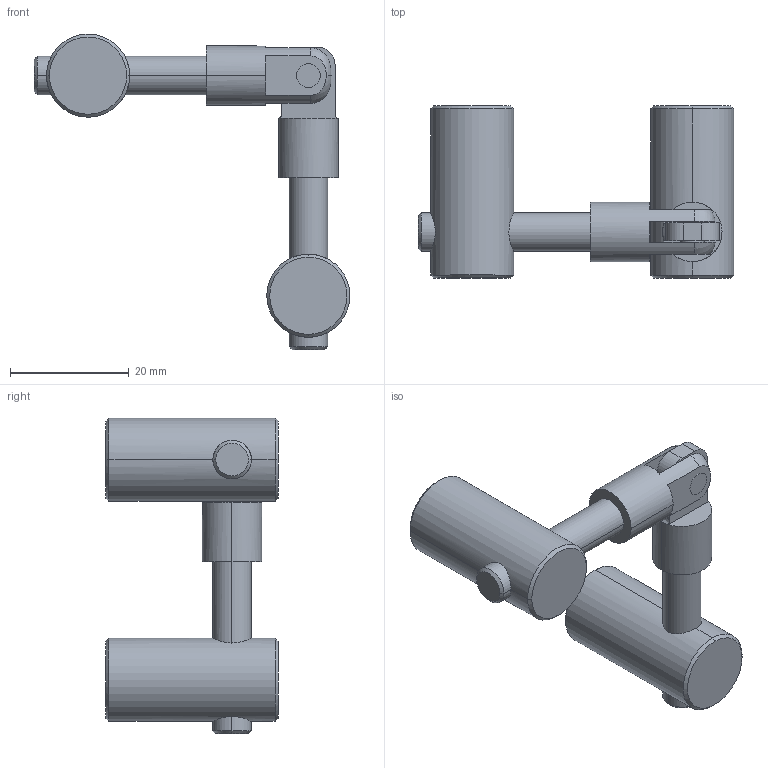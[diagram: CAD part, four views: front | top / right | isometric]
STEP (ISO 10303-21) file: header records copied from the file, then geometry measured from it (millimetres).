
FILE_DESCRIPTION (( 'STEP AP203' ), '1' );
FILE_NAME ('5222.STEP', '2016-04-10T12:09:10', ( '' ), ( '' ), 'SwSTEP 2.0', 'SolidWorks 2014', '' );
FILE_SCHEMA (( 'CONFIG_CONTROL_DESIGN' ));
Length unit declared in the file: millimetre
Products named in the file (5): 111; 222; 333; 444; 5222
Assembly tree (6 placements, depth 2):
  5222
    111
    222
    333  x2
    444  x2
Bounding box: 53.18 x 29.03 x 53.18 mm (x, y, z)
Volume: 10981.2 mm3; surface area: 8383.4 mm2
Topology: 7 solids, 7 shells, 126 faces, 291 edges, 178 vertices
Faces by surface type: plane 50, cylinder 46, cone 16, torus 12, bspline 2
Entity records: 3733 total; most frequent: CARTESIAN_POINT 1064, DIRECTION 450, ORIENTED_EDGE 432, EDGE_CURVE 216, AXIS2_PLACEMENT_3D 180, VERTEX_POINT 134, EDGE_LOOP 100, ADVANCED_FACE 93
